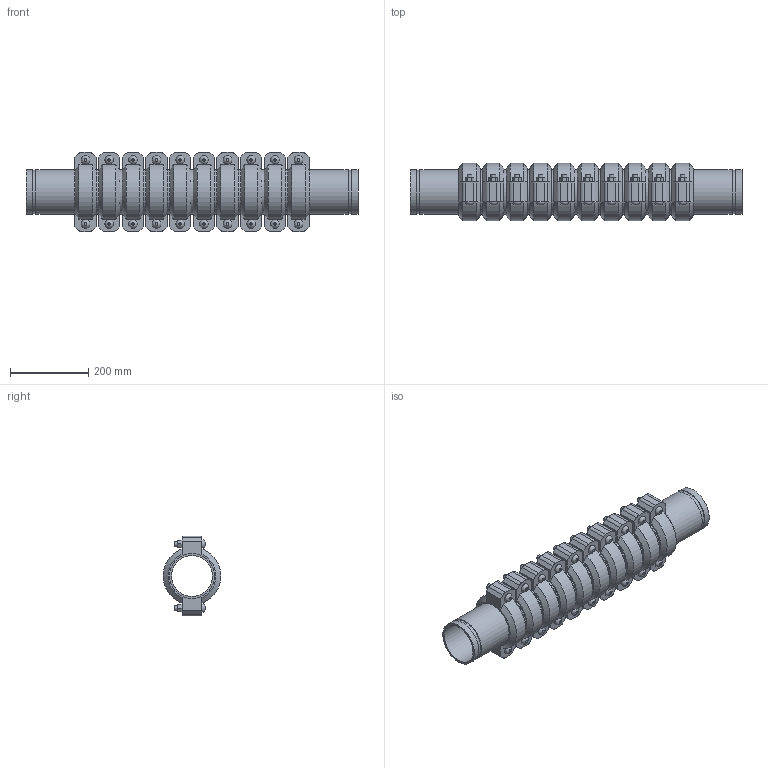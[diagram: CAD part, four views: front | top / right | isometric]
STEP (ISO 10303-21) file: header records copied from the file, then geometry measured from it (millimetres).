
FILE_DESCRIPTION(/* description */ ('VIC SS EXPANSION JOINT 10 COUPLINGS COMPRESSED STYLE 155P (OGS) (POTABLE WATER) ','CAx-IF Rec.Pracs.---Representation and Presentation of Product Manufacturing Information (PMI)---4.0---2014-10-13'),/* implementation_level */ '2;1');
FILE_NAME(/* name */ 'C:\Users\kkamble\AppData\Roaming\Autodesk\ApplicationPlugins\Victaulic.Temp\A563\Victaulic_SS_Expansion Joint_Compressed_10 Couplings_Style 155P (OGS)-Potable Water_10 Coup_Comp_4 (100).stp',/* time_stamp */ '2021-07-16T17:05:32+06:00',/* author */ ('kkamble'),/* organization */ ('Victaulic'),/* preprocessor_version */ 'ST-DEVELOPER v17.2',/* originating_system */ 'Autodesk Inventor 2019',/* authorisation */ '');
FILE_SCHEMA (('AP242_MANAGED_MODEL_BASED_3D_ENGINEERING_MIM_LF { 1 0 10303 442 1 1 4 }'));
Length unit declared in the file: inch
Products named in the file (4): 155P-04.0; Nipple-04.0; Nipple-04.0_1; 075-04.0
Assembly tree (21 placements, depth 2):
  155P-04.0
    Nipple-04.0  x2
    Nipple-04.0_1  x9
    075-04.0  x10
Bounding box: 848.11 x 147.32 x 203.96 mm (x, y, z)
Volume: 6140876.7 mm3; surface area: 1408654.8 mm2
Topology: 21 solids, 41 shells, 662 faces, 1600 edges, 1124 vertices
Faces by surface type: plane 406, cylinder 196, cone 40, bspline 20
Full cylindrical faces by diameter (mm): 12.7 x40, 14.605 x20, 103.988 x11, 110.084 x22, 114.3 x43
Entity records: 2769 total; most frequent: CARTESIAN_POINT 491, DIRECTION 467, ORIENTED_EDGE 374, AXIS2_PLACEMENT_3D 188, EDGE_CURVE 187, VERTEX_POINT 134, EDGE_LOOP 101, LINE 91
